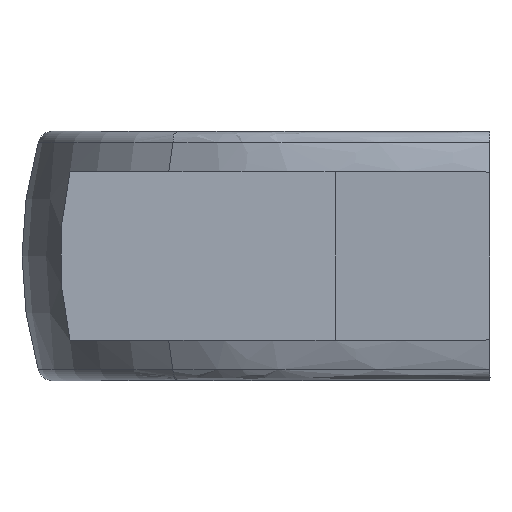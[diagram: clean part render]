
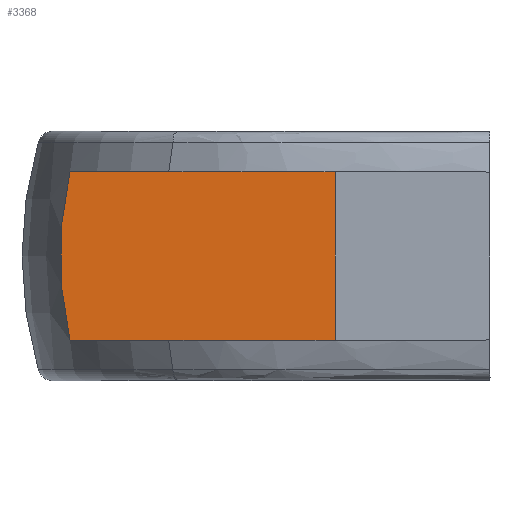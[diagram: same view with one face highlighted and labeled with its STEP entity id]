
A CAD part, left-side view. The second image highlights one B-rep face of the part: STEP entity #3368.
In plain terms, the highlighted planar face has unit normal (-1, 0, 0).
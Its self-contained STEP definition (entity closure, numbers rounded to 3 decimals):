
#42 = CARTESIAN_POINT ( 'NONE',  ( -49.85, 41.346, 0.158 ) ) ;
#55 = VERTEX_POINT ( 'NONE', #922 ) ;
#63 = B_SPLINE_CURVE_WITH_KNOTS ( 'NONE', 3,
 ( #2418, #65, #351, #3524, #661, #1942, #3504, #1877, #42, #1924, #2562, #3213, #2188, #369, #2588, #329, #2539, #2253 ),
 .UNSPECIFIED., .F., .F.,
 ( 4, 2, 1, 1, 2, 2, 1, 1, 2, 2, 4 ),
 ( 0., 0.25, 0.375, 0.438, 0.469, 0.5, 0.625, 0.688, 0.719, 0.75, 1. ),
 .UNSPECIFIED. ) ;
#65 = CARTESIAN_POINT ( 'NONE',  ( -49.85, 40.702, 6.774 ) ) ;
#167 = CARTESIAN_POINT ( 'NONE',  ( -49.85, 14.9, -8.1 ) ) ;
#192 = ORIENTED_EDGE ( 'NONE', *, *, #444, .T. ) ;
#218 = CARTESIAN_POINT ( 'NONE',  ( -49.85, 14.9, -8.1 ) ) ;
#297 = LINE ( 'NONE', #570, #3573 ) ;
#329 = CARTESIAN_POINT ( 'NONE',  ( -49.85, 40.944, -5.429 ) ) ;
#351 = CARTESIAN_POINT ( 'NONE',  ( -49.85, 40.943, 5.435 ) ) ;
#369 = CARTESIAN_POINT ( 'NONE',  ( -49.85, 41.144, -3.734 ) ) ;
#388 = EDGE_CURVE ( 'NONE', #1732, #55, #3355, .T. ) ;
#438 = EDGE_CURVE ( 'NONE', #3397, #1732, #592, .T. ) ;
#444 = EDGE_CURVE ( 'NONE', #815, #2339, #297, .T. ) ;
#545 = FACE_OUTER_BOUND ( 'NONE', #3604, .T. ) ;
#570 = CARTESIAN_POINT ( 'NONE',  ( -49.85, 45., 8.1 ) ) ;
#592 = LINE ( 'NONE', #3494, #915 ) ;
#661 = CARTESIAN_POINT ( 'NONE',  ( -49.85, 41.276, 2.378 ) ) ;
#669 = PLANE ( 'NONE',  #1625 ) ;
#707 = DIRECTION ( 'NONE',  ( 0., 1., 0. ) ) ;
#811 = CARTESIAN_POINT ( 'NONE',  ( -49.85, 14.9, 8.1 ) ) ;
#815 = VERTEX_POINT ( 'NONE', #811 ) ;
#915 = VECTOR ( 'NONE', #2451, 1000. ) ;
#922 = CARTESIAN_POINT ( 'NONE',  ( -49.85, 14.9, 0. ) ) ;
#1041 = DIRECTION ( 'NONE',  ( -1., 0., 0. ) ) ;
#1198 = DIRECTION ( 'NONE',  ( 0., 1., 0. ) ) ;
#1500 = DIRECTION ( 'NONE',  ( 0., 0., 1. ) ) ;
#1620 = CARTESIAN_POINT ( 'NONE',  ( -49.85, 0., 0. ) ) ;
#1625 = AXIS2_PLACEMENT_3D ( 'NONE', #1620, #1041, #707 ) ;
#1732 = VERTEX_POINT ( 'NONE', #3690 ) ;
#1740 = EDGE_CURVE ( 'NONE', #2339, #3397, #63, .T. ) ;
#1840 = VECTOR ( 'NONE', #1500, 1000. ) ;
#1877 = CARTESIAN_POINT ( 'NONE',  ( -49.85, 41.345, 0.33 ) ) ;
#1924 = CARTESIAN_POINT ( 'NONE',  ( -49.85, 41.345, -0.691 ) ) ;
#1942 = CARTESIAN_POINT ( 'NONE',  ( -49.85, 41.328, 1.184 ) ) ;
#2133 = EDGE_CURVE ( 'NONE', #55, #815, #3343, .T. ) ;
#2151 = VECTOR ( 'NONE', #2676, 1000. ) ;
#2188 = CARTESIAN_POINT ( 'NONE',  ( -49.85, 41.179, -3.397 ) ) ;
#2253 = CARTESIAN_POINT ( 'NONE',  ( -49.85, 40.382, -8.1 ) ) ;
#2339 = VERTEX_POINT ( 'NONE', #4020 ) ;
#2363 = ORIENTED_EDGE ( 'NONE', *, *, #2133, .T. ) ;
#2418 = CARTESIAN_POINT ( 'NONE',  ( -49.85, 40.382, 8.1 ) ) ;
#2451 = DIRECTION ( 'NONE',  ( 0., -1., 0. ) ) ;
#2539 = CARTESIAN_POINT ( 'NONE',  ( -49.85, 40.703, -6.772 ) ) ;
#2562 = CARTESIAN_POINT ( 'NONE',  ( -49.85, 41.315, -1.708 ) ) ;
#2588 = CARTESIAN_POINT ( 'NONE',  ( -49.85, 41.125, -3.902 ) ) ;
#2597 = CARTESIAN_POINT ( 'NONE',  ( -49.85, 40.382, -8.1 ) ) ;
#2676 = DIRECTION ( 'NONE',  ( 0., 0., 1. ) ) ;
#2781 = ORIENTED_EDGE ( 'NONE', *, *, #388, .T. ) ;
#3213 = CARTESIAN_POINT ( 'NONE',  ( -49.85, 41.227, -2.891 ) ) ;
#3343 = LINE ( 'NONE', #167, #2151 ) ;
#3355 = LINE ( 'NONE', #218, #1840 ) ;
#3368 = ADVANCED_FACE ( 'NONE', ( #545 ), #669, .T. ) ;
#3397 = VERTEX_POINT ( 'NONE', #2597 ) ;
#3494 = CARTESIAN_POINT ( 'NONE',  ( -49.85, 45., -8.1 ) ) ;
#3504 = CARTESIAN_POINT ( 'NONE',  ( -49.85, 41.34, 0.672 ) ) ;
#3524 = CARTESIAN_POINT ( 'NONE',  ( -49.85, 41.185, 3.398 ) ) ;
#3573 = VECTOR ( 'NONE', #1198, 1000. ) ;
#3604 = EDGE_LOOP ( 'NONE', ( #192, #3875, #4049, #2781, #2363 ) ) ;
#3690 = CARTESIAN_POINT ( 'NONE',  ( -49.85, 14.9, -8.1 ) ) ;
#3875 = ORIENTED_EDGE ( 'NONE', *, *, #1740, .T. ) ;
#4020 = CARTESIAN_POINT ( 'NONE',  ( -49.85, 40.382, 8.1 ) ) ;
#4049 = ORIENTED_EDGE ( 'NONE', *, *, #438, .T. ) ;
